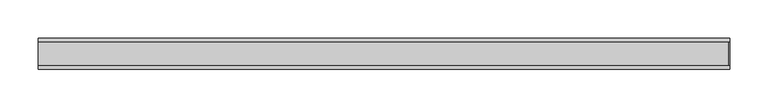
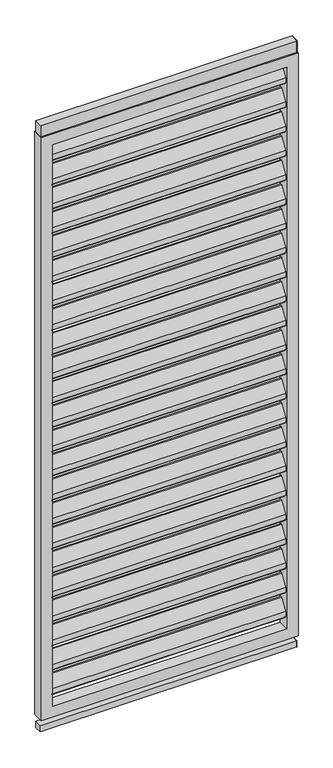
"""IFC4 building model written with IfcOpenShell, lengths in millimetres: proxy geometry, Renson_Camargue_Loggia_Paro_Aluminium : Renson_Camargue_Loggia_Paro_Aluminium."""

from ifc_helpers import new_model, si_unit, point, frame, frame_2d, origin, origin_with_axes, place, context, project, spatial, polyline, circle_curve, trimmed, segment, composite_curve, outline, extrude, source, transform, mapped, element, save


def generic_models_8007af27(model_context):
    return source(origin(), model_context, "Body", "SweptSolid", [
        extrude(outline(composite_curve([segment(trimmed(circle_curve(frame_2d((12.6675921, 2162.6587719)), 3.0), [point((10.1515804, 2164.292689))], [point((15.6675921, 2162.6587719))], False, "CARTESIAN"), True, "CONTINUOUS"), segment(polyline([(15.6675921, 2162.6587719), (15.6675921, 2144.2979873)]), True, "CONTINUOUS"), segment(trimmed(circle_curve(frame_2d((12.6675921, 2144.2979873)), 3.0), [point((15.6675921, 2144.2979873))], [point((15.1836038, 2142.6640702))], False, "CARTESIAN"), True, "CONTINUOUS"), segment(polyline([(15.1836038, 2142.6640702), (-8.8163962, 2105.707311)]), True, "CONTINUOUS"), segment(trimmed(circle_curve(frame_2d((-11.3324079, 2107.3412281)), 3.0), [point((-8.8163962, 2105.707311))], [point((-14.3324079, 2107.3412281))], False, "CARTESIAN"), True, "CONTINUOUS"), segment(polyline([(-14.3324079, 2107.3412281), (-14.3324079, 2126.5906532), (10.1515804, 2164.292689)]), True, "CONTINUOUS")], self_intersect=False)), frame((-410.0, 0.0, 0.0), z_axis=(1.0, 0.0, 0.0), x_axis=(0.0, 1.0, 0.0)), (0.0, 0.0, 1.0), 820.0),
        extrude(outline(composite_curve([segment(trimmed(circle_curve(frame_2d((12.6675921, 2072.6587719)), 3.0), [point((10.1515804, 2074.292689))], [point((15.6675921, 2072.6587719))], False, "CARTESIAN"), True, "CONTINUOUS"), segment(polyline([(15.6675921, 2072.6587719), (15.6675921, 2054.2979873)]), True, "CONTINUOUS"), segment(trimmed(circle_curve(frame_2d((12.6675921, 2054.2979873)), 3.0), [point((15.6675921, 2054.2979873))], [point((15.1836038, 2052.6640702))], False, "CARTESIAN"), True, "CONTINUOUS"), segment(polyline([(15.1836038, 2052.6640702), (-8.8163962, 2015.707311)]), True, "CONTINUOUS"), segment(trimmed(circle_curve(frame_2d((-11.3324079, 2017.3412281)), 3.0), [point((-8.8163962, 2015.707311))], [point((-14.3324079, 2017.3412281))], False, "CARTESIAN"), True, "CONTINUOUS"), segment(polyline([(-14.3324079, 2017.3412281), (-14.3324079, 2036.5906532), (10.1515804, 2074.292689)]), True, "CONTINUOUS")], self_intersect=False)), frame((-410.0, 0.0, 0.0), z_axis=(1.0, 0.0, 0.0), x_axis=(0.0, 1.0, 0.0)), (0.0, 0.0, 1.0), 820.0),
        extrude(outline(composite_curve([segment(trimmed(circle_curve(frame_2d((12.6675921, 1982.6587719)), 3.0), [point((10.1515804, 1984.292689))], [point((15.6675921, 1982.6587719))], False, "CARTESIAN"), True, "CONTINUOUS"), segment(polyline([(15.6675921, 1982.6587719), (15.6675921, 1964.2979873)]), True, "CONTINUOUS"), segment(trimmed(circle_curve(frame_2d((12.6675921, 1964.2979873)), 3.0), [point((15.6675921, 1964.2979873))], [point((15.1836038, 1962.6640702))], False, "CARTESIAN"), True, "CONTINUOUS"), segment(polyline([(15.1836038, 1962.6640702), (-8.8163962, 1925.707311)]), True, "CONTINUOUS"), segment(trimmed(circle_curve(frame_2d((-11.3324079, 1927.3412281)), 3.0), [point((-8.8163962, 1925.707311))], [point((-14.3324079, 1927.3412281))], False, "CARTESIAN"), True, "CONTINUOUS"), segment(polyline([(-14.3324079, 1927.3412281), (-14.3324079, 1946.5906532), (10.1515804, 1984.292689)]), True, "CONTINUOUS")], self_intersect=False)), frame((-410.0, 0.0, 0.0), z_axis=(1.0, 0.0, 0.0), x_axis=(0.0, 1.0, 0.0)), (0.0, 0.0, 1.0), 820.0),
        extrude(outline(composite_curve([segment(trimmed(circle_curve(frame_2d((12.6675921, 1892.6587719)), 3.0), [point((10.1515804, 1894.292689))], [point((15.6675921, 1892.6587719))], False, "CARTESIAN"), True, "CONTINUOUS"), segment(polyline([(15.6675921, 1892.6587719), (15.6675921, 1874.2979873)]), True, "CONTINUOUS"), segment(trimmed(circle_curve(frame_2d((12.6675921, 1874.2979873)), 3.0), [point((15.6675921, 1874.2979873))], [point((15.1836038, 1872.6640702))], False, "CARTESIAN"), True, "CONTINUOUS"), segment(polyline([(15.1836038, 1872.6640702), (-8.8163962, 1835.707311)]), True, "CONTINUOUS"), segment(trimmed(circle_curve(frame_2d((-11.3324079, 1837.3412281)), 3.0), [point((-8.8163962, 1835.707311))], [point((-14.3324079, 1837.3412281))], False, "CARTESIAN"), True, "CONTINUOUS"), segment(polyline([(-14.3324079, 1837.3412281), (-14.3324079, 1856.5906532), (10.1515804, 1894.292689)]), True, "CONTINUOUS")], self_intersect=False)), frame((-410.0, 0.0, 0.0), z_axis=(1.0, 0.0, 0.0), x_axis=(0.0, 1.0, 0.0)), (0.0, 0.0, 1.0), 820.0),
        extrude(outline(composite_curve([segment(trimmed(circle_curve(frame_2d((12.6675921, 1802.6587719)), 3.0), [point((10.1515804, 1804.292689))], [point((15.6675921, 1802.6587719))], False, "CARTESIAN"), True, "CONTINUOUS"), segment(polyline([(15.6675921, 1802.6587719), (15.6675921, 1784.2979873)]), True, "CONTINUOUS"), segment(trimmed(circle_curve(frame_2d((12.6675921, 1784.2979873)), 3.0), [point((15.6675921, 1784.2979873))], [point((15.1836038, 1782.6640702))], False, "CARTESIAN"), True, "CONTINUOUS"), segment(polyline([(15.1836038, 1782.6640702), (-8.8163962, 1745.707311)]), True, "CONTINUOUS"), segment(trimmed(circle_curve(frame_2d((-11.3324079, 1747.3412281)), 3.0), [point((-8.8163962, 1745.707311))], [point((-14.3324079, 1747.3412281))], False, "CARTESIAN"), True, "CONTINUOUS"), segment(polyline([(-14.3324079, 1747.3412281), (-14.3324079, 1766.5906532), (10.1515804, 1804.292689)]), True, "CONTINUOUS")], self_intersect=False)), frame((-410.0, 0.0, 0.0), z_axis=(1.0, 0.0, 0.0), x_axis=(0.0, 1.0, 0.0)), (0.0, 0.0, 1.0), 820.0),
        extrude(outline(composite_curve([segment(trimmed(circle_curve(frame_2d((12.6675921, 1712.6587719)), 3.0), [point((10.1515804, 1714.292689))], [point((15.6675921, 1712.6587719))], False, "CARTESIAN"), True, "CONTINUOUS"), segment(polyline([(15.6675921, 1712.6587719), (15.6675921, 1694.2979873)]), True, "CONTINUOUS"), segment(trimmed(circle_curve(frame_2d((12.6675921, 1694.2979873)), 3.0), [point((15.6675921, 1694.2979873))], [point((15.1836038, 1692.6640702))], False, "CARTESIAN"), True, "CONTINUOUS"), segment(polyline([(15.1836038, 1692.6640702), (-8.8163962, 1655.707311)]), True, "CONTINUOUS"), segment(trimmed(circle_curve(frame_2d((-11.3324079, 1657.3412281)), 3.0), [point((-8.8163962, 1655.707311))], [point((-14.3324079, 1657.3412281))], False, "CARTESIAN"), True, "CONTINUOUS"), segment(polyline([(-14.3324079, 1657.3412281), (-14.3324079, 1676.5906532), (10.1515804, 1714.292689)]), True, "CONTINUOUS")], self_intersect=False)), frame((-410.0, 0.0, 0.0), z_axis=(1.0, 0.0, 0.0), x_axis=(0.0, 1.0, 0.0)), (0.0, 0.0, 1.0), 820.0),
        extrude(outline(composite_curve([segment(trimmed(circle_curve(frame_2d((12.6675921, 1622.6587719)), 3.0), [point((10.1515804, 1624.292689))], [point((15.6675921, 1622.6587719))], False, "CARTESIAN"), True, "CONTINUOUS"), segment(polyline([(15.6675921, 1622.6587719), (15.6675921, 1604.2979873)]), True, "CONTINUOUS"), segment(trimmed(circle_curve(frame_2d((12.6675921, 1604.2979873)), 3.0), [point((15.6675921, 1604.2979873))], [point((15.1836038, 1602.6640702))], False, "CARTESIAN"), True, "CONTINUOUS"), segment(polyline([(15.1836038, 1602.6640702), (-8.8163962, 1565.707311)]), True, "CONTINUOUS"), segment(trimmed(circle_curve(frame_2d((-11.3324079, 1567.3412281)), 3.0), [point((-8.8163962, 1565.707311))], [point((-14.3324079, 1567.3412281))], False, "CARTESIAN"), True, "CONTINUOUS"), segment(polyline([(-14.3324079, 1567.3412281), (-14.3324079, 1586.5906532), (10.1515804, 1624.292689)]), True, "CONTINUOUS")], self_intersect=False)), frame((-410.0, 0.0, 0.0), z_axis=(1.0, 0.0, 0.0), x_axis=(0.0, 1.0, 0.0)), (0.0, 0.0, 1.0), 820.0),
        extrude(outline(composite_curve([segment(trimmed(circle_curve(frame_2d((12.6675921, 1532.6587719)), 3.0), [point((10.1515804, 1534.292689))], [point((15.6675921, 1532.6587719))], False, "CARTESIAN"), True, "CONTINUOUS"), segment(polyline([(15.6675921, 1532.6587719), (15.6675921, 1514.2979873)]), True, "CONTINUOUS"), segment(trimmed(circle_curve(frame_2d((12.6675921, 1514.2979873)), 3.0), [point((15.6675921, 1514.2979873))], [point((15.1836038, 1512.6640702))], False, "CARTESIAN"), True, "CONTINUOUS"), segment(polyline([(15.1836038, 1512.6640702), (-8.8163962, 1475.707311)]), True, "CONTINUOUS"), segment(trimmed(circle_curve(frame_2d((-11.3324079, 1477.3412281)), 3.0), [point((-8.8163962, 1475.707311))], [point((-14.3324079, 1477.3412281))], False, "CARTESIAN"), True, "CONTINUOUS"), segment(polyline([(-14.3324079, 1477.3412281), (-14.3324079, 1496.5906532), (10.1515804, 1534.292689)]), True, "CONTINUOUS")], self_intersect=False)), frame((-410.0, 0.0, 0.0), z_axis=(1.0, 0.0, 0.0), x_axis=(0.0, 1.0, 0.0)), (0.0, 0.0, 1.0), 820.0),
        extrude(outline(composite_curve([segment(trimmed(circle_curve(frame_2d((12.6675921, 1442.6587719)), 3.0), [point((10.1515804, 1444.292689))], [point((15.6675921, 1442.6587719))], False, "CARTESIAN"), True, "CONTINUOUS"), segment(polyline([(15.6675921, 1442.6587719), (15.6675921, 1424.2979873)]), True, "CONTINUOUS"), segment(trimmed(circle_curve(frame_2d((12.6675921, 1424.2979873)), 3.0), [point((15.6675921, 1424.2979873))], [point((15.1836038, 1422.6640702))], False, "CARTESIAN"), True, "CONTINUOUS"), segment(polyline([(15.1836038, 1422.6640702), (-8.8163962, 1385.707311)]), True, "CONTINUOUS"), segment(trimmed(circle_curve(frame_2d((-11.3324079, 1387.3412281)), 3.0), [point((-8.8163962, 1385.707311))], [point((-14.3324079, 1387.3412281))], False, "CARTESIAN"), True, "CONTINUOUS"), segment(polyline([(-14.3324079, 1387.3412281), (-14.3324079, 1406.5906532), (10.1515804, 1444.292689)]), True, "CONTINUOUS")], self_intersect=False)), frame((-410.0, 0.0, 0.0), z_axis=(1.0, 0.0, 0.0), x_axis=(0.0, 1.0, 0.0)), (0.0, 0.0, 1.0), 820.0),
        extrude(outline(composite_curve([segment(trimmed(circle_curve(frame_2d((12.6675921, 1352.6587719)), 3.0), [point((10.1515804, 1354.292689))], [point((15.6675921, 1352.6587719))], False, "CARTESIAN"), True, "CONTINUOUS"), segment(polyline([(15.6675921, 1352.6587719), (15.6675921, 1334.2979873)]), True, "CONTINUOUS"), segment(trimmed(circle_curve(frame_2d((12.6675921, 1334.2979873)), 3.0), [point((15.6675921, 1334.2979873))], [point((15.1836038, 1332.6640702))], False, "CARTESIAN"), True, "CONTINUOUS"), segment(polyline([(15.1836038, 1332.6640702), (-8.8163962, 1295.707311)]), True, "CONTINUOUS"), segment(trimmed(circle_curve(frame_2d((-11.3324079, 1297.3412281)), 3.0), [point((-8.8163962, 1295.707311))], [point((-14.3324079, 1297.3412281))], False, "CARTESIAN"), True, "CONTINUOUS"), segment(polyline([(-14.3324079, 1297.3412281), (-14.3324079, 1316.5906532), (10.1515804, 1354.292689)]), True, "CONTINUOUS")], self_intersect=False)), frame((-410.0, 0.0, 0.0), z_axis=(1.0, 0.0, 0.0), x_axis=(0.0, 1.0, 0.0)), (0.0, 0.0, 1.0), 820.0),
        extrude(outline(composite_curve([segment(trimmed(circle_curve(frame_2d((12.6675921, 1262.6587719)), 3.0), [point((10.1515804, 1264.292689))], [point((15.6675921, 1262.6587719))], False, "CARTESIAN"), True, "CONTINUOUS"), segment(polyline([(15.6675921, 1262.6587719), (15.6675921, 1244.2979873)]), True, "CONTINUOUS"), segment(trimmed(circle_curve(frame_2d((12.6675921, 1244.2979873)), 3.0), [point((15.6675921, 1244.2979873))], [point((15.1836038, 1242.6640702))], False, "CARTESIAN"), True, "CONTINUOUS"), segment(polyline([(15.1836038, 1242.6640702), (-8.8163962, 1205.707311)]), True, "CONTINUOUS"), segment(trimmed(circle_curve(frame_2d((-11.3324079, 1207.3412281)), 3.0), [point((-8.8163962, 1205.707311))], [point((-14.3324079, 1207.3412281))], False, "CARTESIAN"), True, "CONTINUOUS"), segment(polyline([(-14.3324079, 1207.3412281), (-14.3324079, 1226.5906532), (10.1515804, 1264.292689)]), True, "CONTINUOUS")], self_intersect=False)), frame((-410.0, 0.0, 0.0), z_axis=(1.0, 0.0, 0.0), x_axis=(0.0, 1.0, 0.0)), (0.0, 0.0, 1.0), 820.0),
        extrude(outline(composite_curve([segment(trimmed(circle_curve(frame_2d((12.6675921, 1172.6587719)), 3.0), [point((10.1515804, 1174.292689))], [point((15.6675921, 1172.6587719))], False, "CARTESIAN"), True, "CONTINUOUS"), segment(polyline([(15.6675921, 1172.6587719), (15.6675921, 1154.2979873)]), True, "CONTINUOUS"), segment(trimmed(circle_curve(frame_2d((12.6675921, 1154.2979873)), 3.0), [point((15.6675921, 1154.2979873))], [point((15.1836038, 1152.6640702))], False, "CARTESIAN"), True, "CONTINUOUS"), segment(polyline([(15.1836038, 1152.6640702), (-8.8163962, 1115.707311)]), True, "CONTINUOUS"), segment(trimmed(circle_curve(frame_2d((-11.3324079, 1117.3412281)), 3.0), [point((-8.8163962, 1115.707311))], [point((-14.3324079, 1117.3412281))], False, "CARTESIAN"), True, "CONTINUOUS"), segment(polyline([(-14.3324079, 1117.3412281), (-14.3324079, 1136.5906532), (10.1515804, 1174.292689)]), True, "CONTINUOUS")], self_intersect=False)), frame((-410.0, 0.0, 0.0), z_axis=(1.0, 0.0, 0.0), x_axis=(0.0, 1.0, 0.0)), (0.0, 0.0, 1.0), 820.0),
        extrude(outline(composite_curve([segment(trimmed(circle_curve(frame_2d((12.6675921, 1082.6587719)), 3.0), [point((10.1515804, 1084.292689))], [point((15.6675921, 1082.6587719))], False, "CARTESIAN"), True, "CONTINUOUS"), segment(polyline([(15.6675921, 1082.6587719), (15.6675921, 1064.2979873)]), True, "CONTINUOUS"), segment(trimmed(circle_curve(frame_2d((12.6675921, 1064.2979873)), 3.0), [point((15.6675921, 1064.2979873))], [point((15.1836038, 1062.6640702))], False, "CARTESIAN"), True, "CONTINUOUS"), segment(polyline([(15.1836038, 1062.6640702), (-8.8163962, 1025.707311)]), True, "CONTINUOUS"), segment(trimmed(circle_curve(frame_2d((-11.3324079, 1027.3412281)), 3.0), [point((-8.8163962, 1025.707311))], [point((-14.3324079, 1027.3412281))], False, "CARTESIAN"), True, "CONTINUOUS"), segment(polyline([(-14.3324079, 1027.3412281), (-14.3324079, 1046.5906532), (10.1515804, 1084.292689)]), True, "CONTINUOUS")], self_intersect=False)), frame((-410.0, 0.0, 0.0), z_axis=(1.0, 0.0, 0.0), x_axis=(0.0, 1.0, 0.0)), (0.0, 0.0, 1.0), 820.0),
        extrude(outline(composite_curve([segment(trimmed(circle_curve(frame_2d((12.6675921, 992.6587719)), 3.0), [point((10.1515804, 994.292689))], [point((15.6675921, 992.6587719))], False, "CARTESIAN"), True, "CONTINUOUS"), segment(polyline([(15.6675921, 992.6587719), (15.6675921, 974.2979873)]), True, "CONTINUOUS"), segment(trimmed(circle_curve(frame_2d((12.6675921, 974.2979873)), 3.0), [point((15.6675921, 974.2979873))], [point((15.1836038, 972.6640702))], False, "CARTESIAN"), True, "CONTINUOUS"), segment(polyline([(15.1836038, 972.6640702), (-8.8163962, 935.707311)]), True, "CONTINUOUS"), segment(trimmed(circle_curve(frame_2d((-11.3324079, 937.3412281)), 3.0), [point((-8.8163962, 935.707311))], [point((-14.3324079, 937.3412281))], False, "CARTESIAN"), True, "CONTINUOUS"), segment(polyline([(-14.3324079, 937.3412281), (-14.3324079, 956.5906532), (10.1515804, 994.292689)]), True, "CONTINUOUS")], self_intersect=False)), frame((-410.0, 0.0, 0.0), z_axis=(1.0, 0.0, 0.0), x_axis=(0.0, 1.0, 0.0)), (0.0, 0.0, 1.0), 820.0),
        extrude(outline(composite_curve([segment(trimmed(circle_curve(frame_2d((12.6675921, 902.6587719)), 3.0), [point((10.1515804, 904.292689))], [point((15.6675921, 902.6587719))], False, "CARTESIAN"), True, "CONTINUOUS"), segment(polyline([(15.6675921, 902.6587719), (15.6675921, 884.2979873)]), True, "CONTINUOUS"), segment(trimmed(circle_curve(frame_2d((12.6675921, 884.2979873)), 3.0), [point((15.6675921, 884.2979873))], [point((15.1836038, 882.6640702))], False, "CARTESIAN"), True, "CONTINUOUS"), segment(polyline([(15.1836038, 882.6640702), (-8.8163962, 845.707311)]), True, "CONTINUOUS"), segment(trimmed(circle_curve(frame_2d((-11.3324079, 847.3412281)), 3.0), [point((-8.8163962, 845.707311))], [point((-14.3324079, 847.3412281))], False, "CARTESIAN"), True, "CONTINUOUS"), segment(polyline([(-14.3324079, 847.3412281), (-14.3324079, 866.5906532), (10.1515804, 904.292689)]), True, "CONTINUOUS")], self_intersect=False)), frame((-410.0, 0.0, 0.0), z_axis=(1.0, 0.0, 0.0), x_axis=(0.0, 1.0, 0.0)), (0.0, 0.0, 1.0), 820.0),
        extrude(outline(composite_curve([segment(trimmed(circle_curve(frame_2d((12.6675921, 812.6587719)), 3.0), [point((10.1515804, 814.292689))], [point((15.6675921, 812.6587719))], False, "CARTESIAN"), True, "CONTINUOUS"), segment(polyline([(15.6675921, 812.6587719), (15.6675921, 794.2979873)]), True, "CONTINUOUS"), segment(trimmed(circle_curve(frame_2d((12.6675921, 794.2979873)), 3.0), [point((15.6675921, 794.2979873))], [point((15.1836038, 792.6640702))], False, "CARTESIAN"), True, "CONTINUOUS"), segment(polyline([(15.1836038, 792.6640702), (-8.8163962, 755.707311)]), True, "CONTINUOUS"), segment(trimmed(circle_curve(frame_2d((-11.3324079, 757.3412281)), 3.0), [point((-8.8163962, 755.707311))], [point((-14.3324079, 757.3412281))], False, "CARTESIAN"), True, "CONTINUOUS"), segment(polyline([(-14.3324079, 757.3412281), (-14.3324079, 776.5906532), (10.1515804, 814.292689)]), True, "CONTINUOUS")], self_intersect=False)), frame((-410.0, 0.0, 0.0), z_axis=(1.0, 0.0, 0.0), x_axis=(0.0, 1.0, 0.0)), (0.0, 0.0, 1.0), 820.0),
        extrude(outline(composite_curve([segment(trimmed(circle_curve(frame_2d((12.6675921, 722.6587719)), 3.0), [point((10.1515804, 724.292689))], [point((15.6675921, 722.6587719))], False, "CARTESIAN"), True, "CONTINUOUS"), segment(polyline([(15.6675921, 722.6587719), (15.6675921, 704.2979873)]), True, "CONTINUOUS"), segment(trimmed(circle_curve(frame_2d((12.6675921, 704.2979873)), 3.0), [point((15.6675921, 704.2979873))], [point((15.1836038, 702.6640702))], False, "CARTESIAN"), True, "CONTINUOUS"), segment(polyline([(15.1836038, 702.6640702), (-8.8163962, 665.707311)]), True, "CONTINUOUS"), segment(trimmed(circle_curve(frame_2d((-11.3324079, 667.3412281)), 3.0), [point((-8.8163962, 665.707311))], [point((-14.3324079, 667.3412281))], False, "CARTESIAN"), True, "CONTINUOUS"), segment(polyline([(-14.3324079, 667.3412281), (-14.3324079, 686.5906532), (10.1515804, 724.292689)]), True, "CONTINUOUS")], self_intersect=False)), frame((-410.0, 0.0, 0.0), z_axis=(1.0, 0.0, 0.0), x_axis=(0.0, 1.0, 0.0)), (0.0, 0.0, 1.0), 820.0),
        extrude(outline(composite_curve([segment(trimmed(circle_curve(frame_2d((12.6675921, 632.6587719)), 3.0), [point((10.1515804, 634.292689))], [point((15.6675921, 632.6587719))], False, "CARTESIAN"), True, "CONTINUOUS"), segment(polyline([(15.6675921, 632.6587719), (15.6675921, 614.2979873)]), True, "CONTINUOUS"), segment(trimmed(circle_curve(frame_2d((12.6675921, 614.2979873)), 3.0), [point((15.6675921, 614.2979873))], [point((15.1836038, 612.6640702))], False, "CARTESIAN"), True, "CONTINUOUS"), segment(polyline([(15.1836038, 612.6640702), (-8.8163962, 575.707311)]), True, "CONTINUOUS"), segment(trimmed(circle_curve(frame_2d((-11.3324079, 577.3412281)), 3.0), [point((-8.8163962, 575.707311))], [point((-14.3324079, 577.3412281))], False, "CARTESIAN"), True, "CONTINUOUS"), segment(polyline([(-14.3324079, 577.3412281), (-14.3324079, 596.5906532), (10.1515804, 634.292689)]), True, "CONTINUOUS")], self_intersect=False)), frame((-410.0, 0.0, 0.0), z_axis=(1.0, 0.0, 0.0), x_axis=(0.0, 1.0, 0.0)), (0.0, 0.0, 1.0), 820.0),
        extrude(outline(composite_curve([segment(trimmed(circle_curve(frame_2d((12.6675921, 542.6587719)), 3.0), [point((10.1515804, 544.292689))], [point((15.6675921, 542.6587719))], False, "CARTESIAN"), True, "CONTINUOUS"), segment(polyline([(15.6675921, 542.6587719), (15.6675921, 524.2979873)]), True, "CONTINUOUS"), segment(trimmed(circle_curve(frame_2d((12.6675921, 524.2979873)), 3.0), [point((15.6675921, 524.2979873))], [point((15.1836038, 522.6640702))], False, "CARTESIAN"), True, "CONTINUOUS"), segment(polyline([(15.1836038, 522.6640702), (-8.8163962, 485.707311)]), True, "CONTINUOUS"), segment(trimmed(circle_curve(frame_2d((-11.3324079, 487.3412281)), 3.0), [point((-8.8163962, 485.707311))], [point((-14.3324079, 487.3412281))], False, "CARTESIAN"), True, "CONTINUOUS"), segment(polyline([(-14.3324079, 487.3412281), (-14.3324079, 506.5906532), (10.1515804, 544.292689)]), True, "CONTINUOUS")], self_intersect=False)), frame((-410.0, 0.0, 0.0), z_axis=(1.0, 0.0, 0.0), x_axis=(0.0, 1.0, 0.0)), (0.0, 0.0, 1.0), 820.0),
        extrude(outline(composite_curve([segment(trimmed(circle_curve(frame_2d((12.6675921, 452.6587719)), 3.0), [point((10.1515804, 454.292689))], [point((15.6675921, 452.6587719))], False, "CARTESIAN"), True, "CONTINUOUS"), segment(polyline([(15.6675921, 452.6587719), (15.6675921, 434.2979873)]), True, "CONTINUOUS"), segment(trimmed(circle_curve(frame_2d((12.6675921, 434.2979873)), 3.0), [point((15.6675921, 434.2979873))], [point((15.1836038, 432.6640702))], False, "CARTESIAN"), True, "CONTINUOUS"), segment(polyline([(15.1836038, 432.6640702), (-8.8163962, 395.707311)]), True, "CONTINUOUS"), segment(trimmed(circle_curve(frame_2d((-11.3324079, 397.3412281)), 3.0), [point((-8.8163962, 395.707311))], [point((-14.3324079, 397.3412281))], False, "CARTESIAN"), True, "CONTINUOUS"), segment(polyline([(-14.3324079, 397.3412281), (-14.3324079, 416.5906532), (10.1515804, 454.292689)]), True, "CONTINUOUS")], self_intersect=False)), frame((-410.0, 0.0, 0.0), z_axis=(1.0, 0.0, 0.0), x_axis=(0.0, 1.0, 0.0)), (0.0, 0.0, 1.0), 820.0),
        extrude(outline(composite_curve([segment(trimmed(circle_curve(frame_2d((12.6675921, 362.6587719)), 3.0), [point((10.1515804, 364.292689))], [point((15.6675921, 362.6587719))], False, "CARTESIAN"), True, "CONTINUOUS"), segment(polyline([(15.6675921, 362.6587719), (15.6675921, 344.2979873)]), True, "CONTINUOUS"), segment(trimmed(circle_curve(frame_2d((12.6675921, 344.2979873)), 3.0), [point((15.6675921, 344.2979873))], [point((15.1836038, 342.6640702))], False, "CARTESIAN"), True, "CONTINUOUS"), segment(polyline([(15.1836038, 342.6640702), (-8.8163962, 305.707311)]), True, "CONTINUOUS"), segment(trimmed(circle_curve(frame_2d((-11.3324079, 307.3412281)), 3.0), [point((-8.8163962, 305.707311))], [point((-14.3324079, 307.3412281))], False, "CARTESIAN"), True, "CONTINUOUS"), segment(polyline([(-14.3324079, 307.3412281), (-14.3324079, 326.5906532), (10.1515804, 364.292689)]), True, "CONTINUOUS")], self_intersect=False)), frame((-410.0, 0.0, 0.0), z_axis=(1.0, 0.0, 0.0), x_axis=(0.0, 1.0, 0.0)), (0.0, 0.0, 1.0), 820.0),
        extrude(outline(composite_curve([segment(trimmed(circle_curve(frame_2d((12.6675921, 272.6587719)), 3.0), [point((10.1515804, 274.292689))], [point((15.6675921, 272.6587719))], False, "CARTESIAN"), True, "CONTINUOUS"), segment(polyline([(15.6675921, 272.6587719), (15.6675921, 254.2979873)]), True, "CONTINUOUS"), segment(trimmed(circle_curve(frame_2d((12.6675921, 254.2979873)), 3.0), [point((15.6675921, 254.2979873))], [point((15.1836038, 252.6640702))], False, "CARTESIAN"), True, "CONTINUOUS"), segment(polyline([(15.1836038, 252.6640702), (-8.8163962, 215.707311)]), True, "CONTINUOUS"), segment(trimmed(circle_curve(frame_2d((-11.3324079, 217.3412281)), 3.0), [point((-8.8163962, 215.707311))], [point((-14.3324079, 217.3412281))], False, "CARTESIAN"), True, "CONTINUOUS"), segment(polyline([(-14.3324079, 217.3412281), (-14.3324079, 236.5906532), (10.1515804, 274.292689)]), True, "CONTINUOUS")], self_intersect=False)), frame((-410.0, 0.0, 0.0), z_axis=(1.0, 0.0, 0.0), x_axis=(0.0, 1.0, 0.0)), (0.0, 0.0, 1.0), 820.0),
        extrude(outline(composite_curve([segment(trimmed(circle_curve(frame_2d((12.6675921, 182.6587719)), 3.0), [point((10.1515804, 184.292689))], [point((15.6675921, 182.6587719))], False, "CARTESIAN"), True, "CONTINUOUS"), segment(polyline([(15.6675921, 182.6587719), (15.6675921, 164.2979873)]), True, "CONTINUOUS"), segment(trimmed(circle_curve(frame_2d((12.6675921, 164.2979873)), 3.0), [point((15.6675921, 164.2979873))], [point((15.1836038, 162.6640702))], False, "CARTESIAN"), True, "CONTINUOUS"), segment(polyline([(15.1836038, 162.6640702), (-8.8163962, 125.707311)]), True, "CONTINUOUS"), segment(trimmed(circle_curve(frame_2d((-11.3324079, 127.3412281)), 3.0), [point((-8.8163962, 125.707311))], [point((-14.3324079, 127.3412281))], False, "CARTESIAN"), True, "CONTINUOUS"), segment(polyline([(-14.3324079, 127.3412281), (-14.3324079, 146.5906532), (10.1515804, 184.292689)]), True, "CONTINUOUS")], self_intersect=False)), frame((-410.0, 0.0, 0.0), z_axis=(1.0, 0.0, 0.0), x_axis=(0.0, 1.0, 0.0)), (0.0, 0.0, 1.0), 820.0),
        extrude(outline(polyline([(450.0, 15.0), (450.0, -15.0), (449.0, -15.0), (449.0, 15.0), (450.0, 15.0)])), frame((0.0, 0.0, 2207.7138321), z_axis=(0.0, 0.0, 1.0), x_axis=(1.0, 0.0, 0.0)), (0.0, 0.0, 1.0), 42.2861679),
        extrude(outline(polyline([(450.0, 15.0), (450.0, -15.0), (-450.0, -15.0), (-450.0, 15.0), (450.0, 15.0)])), frame((0.0, 0.0, 2207.7138321), z_axis=(0.0, 0.0, 1.0), x_axis=(1.0, 0.0, 0.0)), (0.0, 0.0, 1.0), 42.2861679),
        extrude(outline(polyline([(450.0, -13.0), (449.0, -13.0), (449.0, 14.0), (450.0, 14.0), (450.0, -13.0)])), origin_with_axes(), (0.0, 0.0, 1.0), 23.0),
        extrude(outline(polyline([(450.0, -13.0), (-450.0, -13.0), (-450.0, 14.0), (450.0, 14.0), (450.0, -13.0)])), origin_with_axes(), (0.0, 0.0, 1.0), 23.0),
        extrude(outline(polyline([(2207.7138321, -450.0), (45.0, -450.0), (45.0, 450.0), (2207.7138321, 450.0), (2207.7138321, -450.0)]), holes=[polyline([(2167.7138321, 410.0), (85.0, 410.0), (85.0, -410.0), (2167.7138321, -410.0), (2167.7138321, 410.0)])]), frame((0.0, -20.0, 0.0), z_axis=(0.0, 1.0, 0.0), x_axis=(0.0, 0.0, 1.0)), (0.0, 0.0, 1.0), 40.0),
    ])


if __name__ == "__main__":
    model = new_model("IFC4")
    model_context = context("Model", 3, world=origin())
    ifc_project = project(units=[si_unit("LENGTHUNIT", "METRE", prefix="MILLI")], contexts=[model_context])
    site = spatial("IfcSite", under=ifc_project)
    building = spatial("IfcBuilding", under=site)
    placement = place(None, origin())
    generic_models_shape = generic_models_8007af27(model_context)
    element("IfcBuildingElementProxy", 1, Name="Renson_Camargue_Loggia_Paro_Aluminium : Renson_Camargue_Loggia_Paro_Aluminium", ObjectType="Renson_Camargue_Loggia_Paro_Aluminium : Renson_Camargue_Loggia_Paro_Aluminium", at=placement, inside=building, context=model_context, shape_type="MappedRepresentation", body=[
        mapped(generic_models_shape, transform((0.0, 0.0, 0.0), x_axis=(1.0, 0.0, 0.0), y_axis=(0.0, 1.0, 0.0), z_axis=(0.0, 0.0, 1.0))),
    ])
    save(model, "model.ifc")
